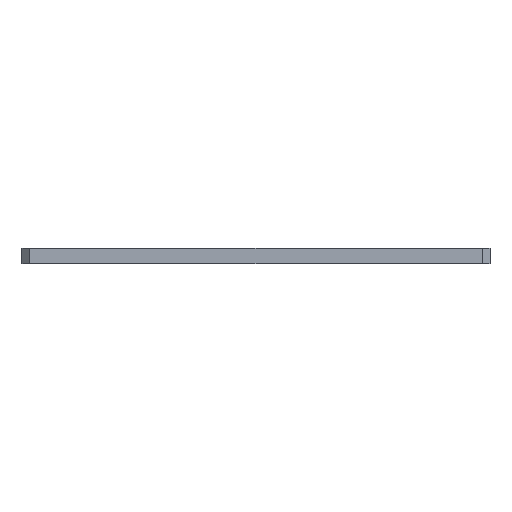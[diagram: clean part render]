
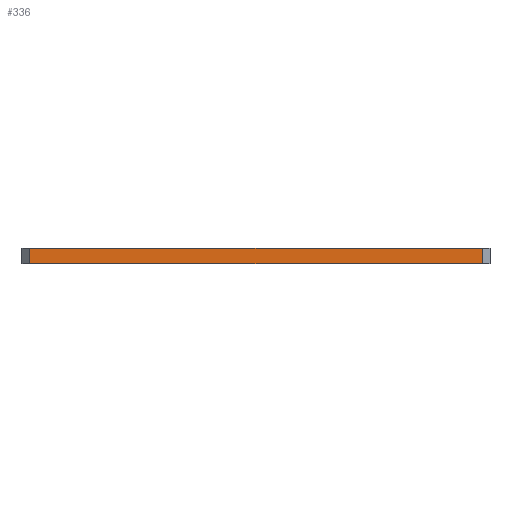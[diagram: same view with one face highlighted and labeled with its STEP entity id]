
A CAD part, front view. The second image highlights one B-rep face of the part: STEP entity #336.
In plain terms, the highlighted planar face has unit normal (0, -1, 0).
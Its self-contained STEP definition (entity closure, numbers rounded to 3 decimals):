
#5 = DIRECTION ( 'NONE',  ( 0., 1., 0. ) ) ;
#86 = LINE ( 'NONE', #538, #1074 ) ;
#90 = ORIENTED_EDGE ( 'NONE', *, *, #570, .T. ) ;
#98 = VECTOR ( 'NONE', #842, 1000. ) ;
#104 = EDGE_CURVE ( 'NONE', #1182, #681, #626, .T. ) ;
#117 = FACE_OUTER_BOUND ( 'NONE', #231, .T. ) ;
#231 = EDGE_LOOP ( 'NONE', ( #90, #637, #627, #282 ) ) ;
#259 = CARTESIAN_POINT ( 'NONE',  ( -59., -74., 0. ) ) ;
#261 = DIRECTION ( 'NONE',  ( 0., 0., -1. ) ) ;
#282 = ORIENTED_EDGE ( 'NONE', *, *, #1063, .T. ) ;
#336 = ADVANCED_FACE ( 'NONE', ( #117 ), #762, .F. ) ;
#375 = LINE ( 'NONE', #259, #506 ) ;
#381 = EDGE_CURVE ( 'NONE', #681, #644, #945, .T. ) ;
#386 = DIRECTION ( 'NONE',  ( 0., 0., 1. ) ) ;
#496 = CARTESIAN_POINT ( 'NONE',  ( -59., -74., 0. ) ) ;
#506 = VECTOR ( 'NONE', #722, 1000. ) ;
#538 = CARTESIAN_POINT ( 'NONE',  ( -59., -74., 4. ) ) ;
#552 = CARTESIAN_POINT ( 'NONE',  ( 59., -74., 4. ) ) ;
#570 = EDGE_CURVE ( 'NONE', #1213, #644, #375, .T. ) ;
#626 = LINE ( 'NONE', #919, #632 ) ;
#627 = ORIENTED_EDGE ( 'NONE', *, *, #104, .F. ) ;
#632 = VECTOR ( 'NONE', #1097, 1000. ) ;
#633 = CARTESIAN_POINT ( 'NONE',  ( -59., -74., 4. ) ) ;
#637 = ORIENTED_EDGE ( 'NONE', *, *, #381, .F. ) ;
#644 = VERTEX_POINT ( 'NONE', #922 ) ;
#681 = VERTEX_POINT ( 'NONE', #1107 ) ;
#722 = DIRECTION ( 'NONE',  ( 1., 0., 0. ) ) ;
#762 = PLANE ( 'NONE',  #1012 ) ;
#842 = DIRECTION ( 'NONE',  ( 0., 0., -1. ) ) ;
#919 = CARTESIAN_POINT ( 'NONE',  ( -59., -74., 4. ) ) ;
#922 = CARTESIAN_POINT ( 'NONE',  ( 59., -74., 0. ) ) ;
#945 = LINE ( 'NONE', #552, #98 ) ;
#1012 = AXIS2_PLACEMENT_3D ( 'NONE', #1019, #5, #386 ) ;
#1019 = CARTESIAN_POINT ( 'NONE',  ( -59., -74., 4. ) ) ;
#1063 = EDGE_CURVE ( 'NONE', #1182, #1213, #86, .T. ) ;
#1074 = VECTOR ( 'NONE', #261, 1000. ) ;
#1097 = DIRECTION ( 'NONE',  ( 1., 0., 0. ) ) ;
#1107 = CARTESIAN_POINT ( 'NONE',  ( 59., -74., 4. ) ) ;
#1182 = VERTEX_POINT ( 'NONE', #633 ) ;
#1213 = VERTEX_POINT ( 'NONE', #496 ) ;
